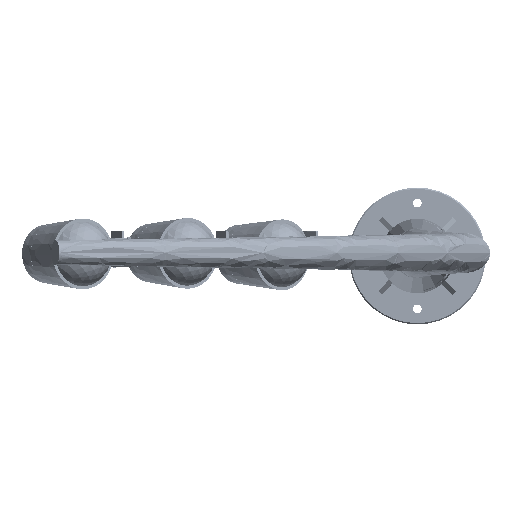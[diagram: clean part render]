
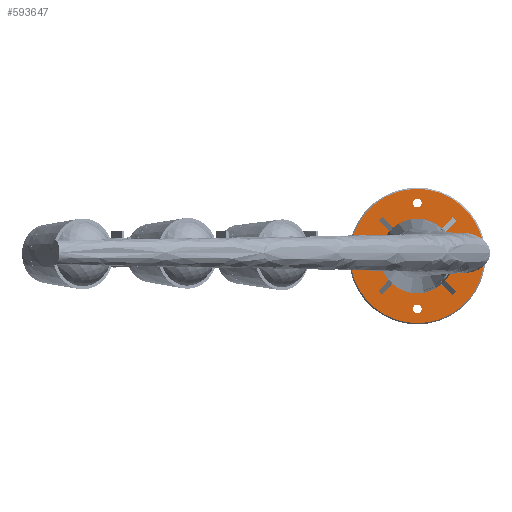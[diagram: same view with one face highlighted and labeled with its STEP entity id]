
A CAD part, top view. The second image highlights one B-rep face of the part: STEP entity #593647.
In plain terms, the highlighted planar face has unit normal (0, 0, 1).
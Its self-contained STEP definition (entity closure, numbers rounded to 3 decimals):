
#593328=CARTESIAN_POINT('',(60.105,60.171,-2492.));
#593329=DIRECTION('',(0.,0.,-1.));
#593330=DIRECTION('',(1.,0.,0.));
#593331=AXIS2_PLACEMENT_3D('',#593328,#593329,#593330);
#593333=CARTESIAN_POINT('',(60.105,60.171,-2492.));
#593334=DIRECTION('',(0.,0.,-1.));
#593335=DIRECTION('',(0.,-1.,0.));
#593336=AXIS2_PLACEMENT_3D('',#593333,#593334,#593335);
#593338=CARTESIAN_POINT('',(60.105,60.171,-2492.));
#593339=DIRECTION('',(0.,0.,-1.));
#593340=DIRECTION('',(-1.,0.,0.));
#593341=AXIS2_PLACEMENT_3D('',#593338,#593339,#593340);
#593343=CARTESIAN_POINT('',(60.105,60.171,-2492.));
#593344=DIRECTION('',(0.,0.,-1.));
#593345=DIRECTION('',(0.,1.,0.));
#593346=AXIS2_PLACEMENT_3D('',#593343,#593344,#593345);
#593348=CARTESIAN_POINT('',(-24.895,60.171,-2492.));
#593349=DIRECTION('',(0.,0.,1.));
#593350=DIRECTION('',(1.,0.,0.));
#593351=AXIS2_PLACEMENT_3D('',#593348,#593349,#593350);
#593353=CARTESIAN_POINT('',(-24.895,60.171,-2492.));
#593354=DIRECTION('',(0.,0.,1.));
#593355=DIRECTION('',(-1.,0.,0.));
#593356=AXIS2_PLACEMENT_3D('',#593353,#593354,#593355);
#593358=CARTESIAN_POINT('',(60.105,-24.829,-2492.));
#593359=DIRECTION('',(0.,0.,1.));
#593360=DIRECTION('',(1.,0.,0.));
#593361=AXIS2_PLACEMENT_3D('',#593358,#593359,#593360);
#593363=CARTESIAN_POINT('',(60.105,-24.829,-2492.));
#593364=DIRECTION('',(0.,0.,1.));
#593365=DIRECTION('',(-1.,0.,0.));
#593366=AXIS2_PLACEMENT_3D('',#593363,#593364,#593365);
#593368=CARTESIAN_POINT('',(145.105,60.171,-2492.));
#593369=DIRECTION('',(0.,0.,1.));
#593370=DIRECTION('',(1.,0.,0.));
#593371=AXIS2_PLACEMENT_3D('',#593368,#593369,#593370);
#593373=CARTESIAN_POINT('',(145.105,60.171,-2492.));
#593374=DIRECTION('',(0.,0.,1.));
#593375=DIRECTION('',(-1.,0.,0.));
#593376=AXIS2_PLACEMENT_3D('',#593373,#593374,#593375);
#593378=CARTESIAN_POINT('',(60.105,145.171,-2492.));
#593379=DIRECTION('',(0.,0.,1.));
#593380=DIRECTION('',(1.,0.,0.));
#593381=AXIS2_PLACEMENT_3D('',#593378,#593379,#593380);
#593383=CARTESIAN_POINT('',(60.105,145.171,-2492.));
#593384=DIRECTION('',(0.,0.,1.));
#593385=DIRECTION('',(-1.,0.,0.));
#593386=AXIS2_PLACEMENT_3D('',#593383,#593384,#593385);
#593388=CARTESIAN_POINT('',(60.105,60.171,-2492.));
#593389=DIRECTION('',(0.,0.,1.));
#593390=DIRECTION('',(1.,0.,0.));
#593391=AXIS2_PLACEMENT_3D('',#593388,#593389,#593390);
#593393=CARTESIAN_POINT('',(60.105,60.171,-2492.));
#593394=DIRECTION('',(0.,0.,1.));
#593395=DIRECTION('',(-1.,0.,0.));
#593396=AXIS2_PLACEMENT_3D('',#593393,#593394,#593395);
#593484=CARTESIAN_POINT('',(60.105,168.171,-2492.));
#593485=CARTESIAN_POINT('',(168.105,60.171,-2492.));
#593486=VERTEX_POINT('',#593484);
#593487=VERTEX_POINT('',#593485);
#593488=CARTESIAN_POINT('',(-47.895,60.171,-2492.));
#593489=VERTEX_POINT('',#593488);
#593490=CARTESIAN_POINT('',(60.105,-47.829,-2492.));
#593491=VERTEX_POINT('',#593490);
#593492=CARTESIAN_POINT('',(-17.895,60.171,-2492.));
#593493=CARTESIAN_POINT('',(-31.895,60.171,-2492.));
#593494=VERTEX_POINT('',#593492);
#593495=VERTEX_POINT('',#593493);
#593496=CARTESIAN_POINT('',(67.105,-24.829,-2492.));
#593497=CARTESIAN_POINT('',(53.105,-24.829,-2492.));
#593498=VERTEX_POINT('',#593496);
#593499=VERTEX_POINT('',#593497);
#593500=CARTESIAN_POINT('',(152.105,60.171,-2492.));
#593501=CARTESIAN_POINT('',(138.105,60.171,-2492.));
#593502=VERTEX_POINT('',#593500);
#593503=VERTEX_POINT('',#593501);
#593504=CARTESIAN_POINT('',(67.105,145.171,-2492.));
#593505=CARTESIAN_POINT('',(53.105,145.171,-2492.));
#593506=VERTEX_POINT('',#593504);
#593507=VERTEX_POINT('',#593505);
#593508=CARTESIAN_POINT('',(120.105,60.171,-2492.));
#593509=CARTESIAN_POINT('',(0.105,60.171,-2492.));
#593510=VERTEX_POINT('',#593508);
#593511=VERTEX_POINT('',#593509);
#593604=CARTESIAN_POINT('',(60.105,60.171,-2492.));
#593605=DIRECTION('',(0.,0.,-1.));
#593606=DIRECTION('',(1.,0.,0.));
#593607=AXIS2_PLACEMENT_3D('',#593604,#593605,#593606);
#593608=PLANE('',#593607);
#593610=ORIENTED_EDGE('',*,*,#593609,.T.);
#593612=ORIENTED_EDGE('',*,*,#593611,.T.);
#593613=ORIENTED_EDGE('',*,*,#593593,.T.);
#593614=ORIENTED_EDGE('',*,*,#593591,.T.);
#593615=EDGE_LOOP('',(#593610,#593612,#593613,#593614));
#593616=FACE_OUTER_BOUND('',#593615,.F.);
#593618=ORIENTED_EDGE('',*,*,#593617,.T.);
#593620=ORIENTED_EDGE('',*,*,#593619,.T.);
#593621=EDGE_LOOP('',(#593618,#593620));
#593622=FACE_BOUND('',#593621,.F.);
#593624=ORIENTED_EDGE('',*,*,#593623,.T.);
#593626=ORIENTED_EDGE('',*,*,#593625,.T.);
#593627=EDGE_LOOP('',(#593624,#593626));
#593628=FACE_BOUND('',#593627,.F.);
#593630=ORIENTED_EDGE('',*,*,#593629,.T.);
#593632=ORIENTED_EDGE('',*,*,#593631,.T.);
#593633=EDGE_LOOP('',(#593630,#593632));
#593634=FACE_BOUND('',#593633,.F.);
#593636=ORIENTED_EDGE('',*,*,#593635,.T.);
#593638=ORIENTED_EDGE('',*,*,#593637,.T.);
#593639=EDGE_LOOP('',(#593636,#593638));
#593640=FACE_BOUND('',#593639,.F.);
#593642=ORIENTED_EDGE('',*,*,#593641,.T.);
#593644=ORIENTED_EDGE('',*,*,#593643,.T.);
#593645=EDGE_LOOP('',(#593642,#593644));
#593646=FACE_BOUND('',#593645,.F.);
#593647=ADVANCED_FACE('',(#593616,#593622,#593628,#593634,#593640,#593646),
#593608,.F.);
#593332=CIRCLE('',#593331,108.);
#593337=CIRCLE('',#593336,108.);
#593342=CIRCLE('',#593341,108.);
#593347=CIRCLE('',#593346,108.);
#593352=CIRCLE('',#593351,7.);
#593357=CIRCLE('',#593356,7.);
#593362=CIRCLE('',#593361,7.);
#593367=CIRCLE('',#593366,7.);
#593372=CIRCLE('',#593371,7.);
#593377=CIRCLE('',#593376,7.);
#593382=CIRCLE('',#593381,7.);
#593387=CIRCLE('',#593386,7.);
#593392=CIRCLE('',#593391,60.);
#593397=CIRCLE('',#593396,60.);
#593591=EDGE_CURVE('',#593486,#593487,#593347,.T.);
#593593=EDGE_CURVE('',#593489,#593486,#593342,.T.);
#593609=EDGE_CURVE('',#593487,#593491,#593332,.T.);
#593611=EDGE_CURVE('',#593491,#593489,#593337,.T.);
#593617=EDGE_CURVE('',#593494,#593495,#593352,.T.);
#593619=EDGE_CURVE('',#593495,#593494,#593357,.T.);
#593623=EDGE_CURVE('',#593498,#593499,#593362,.T.);
#593625=EDGE_CURVE('',#593499,#593498,#593367,.T.);
#593629=EDGE_CURVE('',#593502,#593503,#593372,.T.);
#593631=EDGE_CURVE('',#593503,#593502,#593377,.T.);
#593635=EDGE_CURVE('',#593506,#593507,#593382,.T.);
#593637=EDGE_CURVE('',#593507,#593506,#593387,.T.);
#593641=EDGE_CURVE('',#593510,#593511,#593392,.T.);
#593643=EDGE_CURVE('',#593511,#593510,#593397,.T.);
